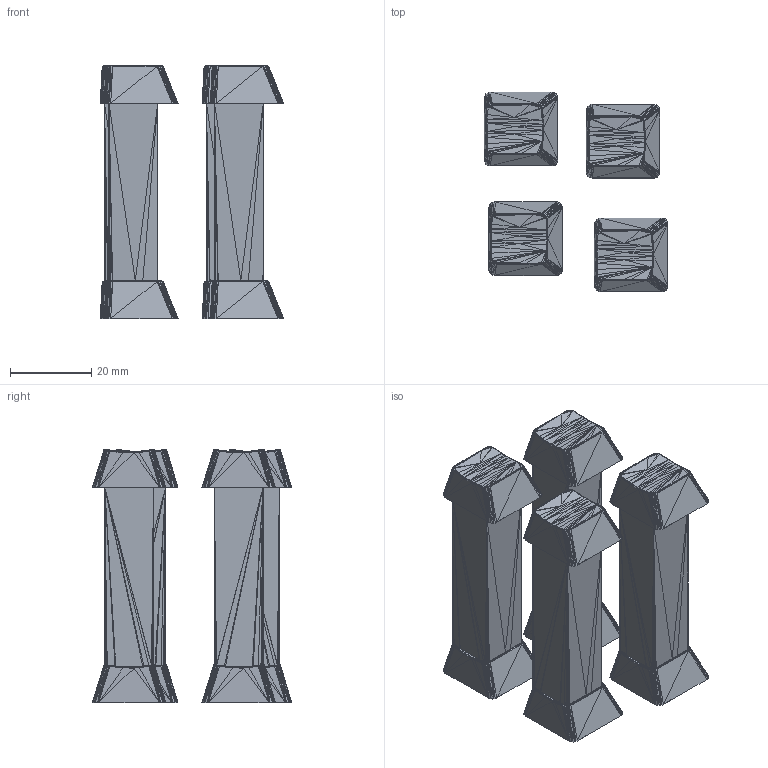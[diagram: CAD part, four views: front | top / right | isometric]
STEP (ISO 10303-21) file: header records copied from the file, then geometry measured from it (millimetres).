
FILE_DESCRIPTION((''),'2;1');
FILE_NAME('Keycaps', '2026-10-27T22:26:36', (''), (''), 'ImageToStl.com STEP Converter','', '');
FILE_SCHEMA(('AUTOMOTIVE_DESIGN_CC2'));
Length unit declared in the file: millimetre
Products named in the file (1): product0
Bounding box: 45.2 x 49.1 x 62.35 mm (x, y, z)
Surface area: 21816.5 mm2 (no closed solid volume)
Topology: 0 solids, 8352 shells, 8352 faces, 25056 edges, 4184 vertices
Faces by surface type: plane 8352
Entity records: 192139 total; most frequent: DIRECTION 41762, ORIENTED_EDGE 25056, EDGE_CURVE 25056, LINE 25056, VECTOR 25056, AXIS2_PLACEMENT_3D 8353, FACE_SURFACE 8352, PLANE 8352
